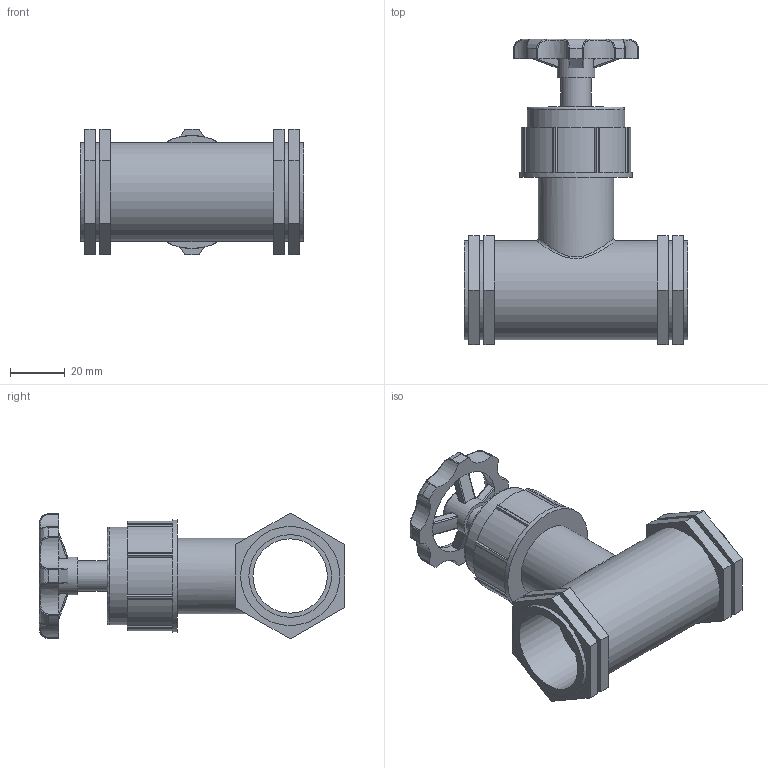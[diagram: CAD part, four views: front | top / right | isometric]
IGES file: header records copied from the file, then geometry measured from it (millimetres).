
Global section: file name: 03405110.ipt; native system: Autodesk Inventor 2015; preprocessor: unknown; author: KIM; date: 20170622.103034; units: millimetre
Bounding box: 82 x 112.01 x 46.19 mm (x, y, z)
Volume: 90444.4 mm3; surface area: 32001.9 mm2
Topology: 1 solids, 1 shells, 183 faces, 492 edges, 321 vertices
Faces by surface type: plane 90, cylinder 42, bspline 25, revolution 22, cone 4
Full cylindrical faces by diameter (mm): 11.04 x1, 13.8 x1, 27.6 x1, 35.88 x1, 36.349 x5, 41.4 x1
